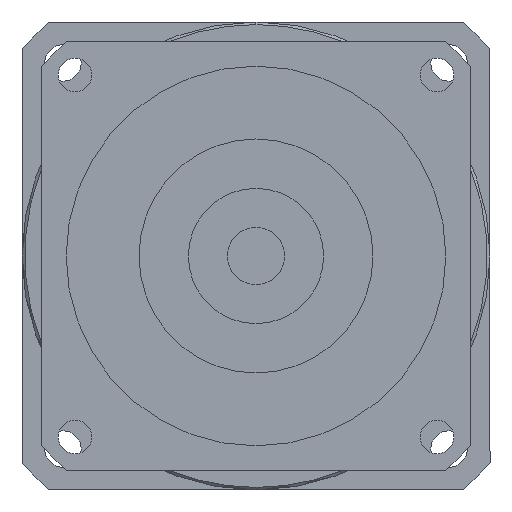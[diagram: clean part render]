
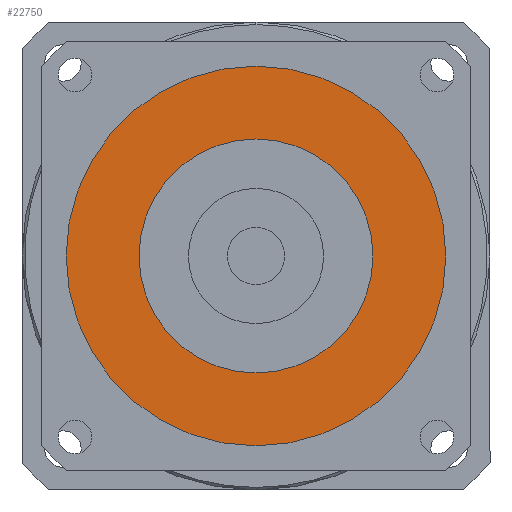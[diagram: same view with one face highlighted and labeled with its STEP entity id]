
A CAD part, left-side view. The second image highlights one B-rep face of the part: STEP entity #22750.
In plain terms, the highlighted planar face has unit normal (-1, 0, 0) as drawn and (0, 0, -1) by its records, which use the part's own axes.
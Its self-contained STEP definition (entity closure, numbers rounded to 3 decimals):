
#22170=CARTESIAN_POINT('',(-36.51,0.,-114.));
#22180=VERTEX_POINT('',#22170);
#22270=CARTESIAN_POINT('',(36.51,0.,-114.));
#22280=VERTEX_POINT('',#22270);
#22310=CARTESIAN_POINT('',(0.,0.,
-114.));
#22320=DIRECTION('',(0.,0.,1.));
#22330=DIRECTION('',(0.,-1.,0.));
#22340=AXIS2_PLACEMENT_3D('',#22310,#22320,#22330);
#22350=CIRCLE('',#22340,36.51);
#22360=CARTESIAN_POINT('',(0.,-36.51,-114.));
#22370=VERTEX_POINT('',#22360);
#22380=EDGE_CURVE('',#22370,#22280,#22350,.T.);
#22400=EDGE_CURVE('',#22180,#22370,#22350,.T.);
#22450=CARTESIAN_POINT('',(0.,0.,
-114.));
#22460=DIRECTION('',(0.,0.,1.));
#22470=DIRECTION('',(-1.,0.,0.));
#22480=AXIS2_PLACEMENT_3D('',#22450,#22460,#22470);
#22490=PLANE('',#22480);
#22500=ORIENTED_EDGE('',*,*,#22380,.F.);
#22510=EDGE_CURVE('',#22280,#22180,#22350,.T.);
#22520=ORIENTED_EDGE('',*,*,#22510,.F.);
#22530=ORIENTED_EDGE('',*,*,#22400,.F.);
#22540=EDGE_LOOP('',(#22530,#22520,#22500));
#22550=FACE_OUTER_BOUND('',#22540,.T.);
#22560=CARTESIAN_POINT('',(0.,0.,
-114.));
#22570=DIRECTION('',(0.,0.,1.));
#22580=DIRECTION('',(0.,-1.,0.));
#22590=AXIS2_PLACEMENT_3D('',#22560,#22570,#22580);
#22600=CIRCLE('',#22590,22.5);
#22610=CARTESIAN_POINT('',(22.5,0.,-114.));
#22620=VERTEX_POINT('',#22610);
#22630=CARTESIAN_POINT('',(-22.5,0.,-114.));
#22640=VERTEX_POINT('',#22630);
#22650=EDGE_CURVE('',#22620,#22640,#22600,.T.);
#22660=ORIENTED_EDGE('',*,*,#22650,.T.);
#22670=CARTESIAN_POINT('',(0.,-22.5,-114.));
#22680=VERTEX_POINT('',#22670);
#22690=EDGE_CURVE('',#22680,#22620,#22600,.T.);
#22700=ORIENTED_EDGE('',*,*,#22690,.T.);
#22710=EDGE_CURVE('',#22640,#22680,#22600,.T.);
#22720=ORIENTED_EDGE('',*,*,#22710,.T.);
#22730=EDGE_LOOP('',(#22720,#22700,#22660));
#22740=FACE_BOUND('',#22730,.T.);
#22750=ADVANCED_FACE('',(#22550,#22740),#22490,.F.);
